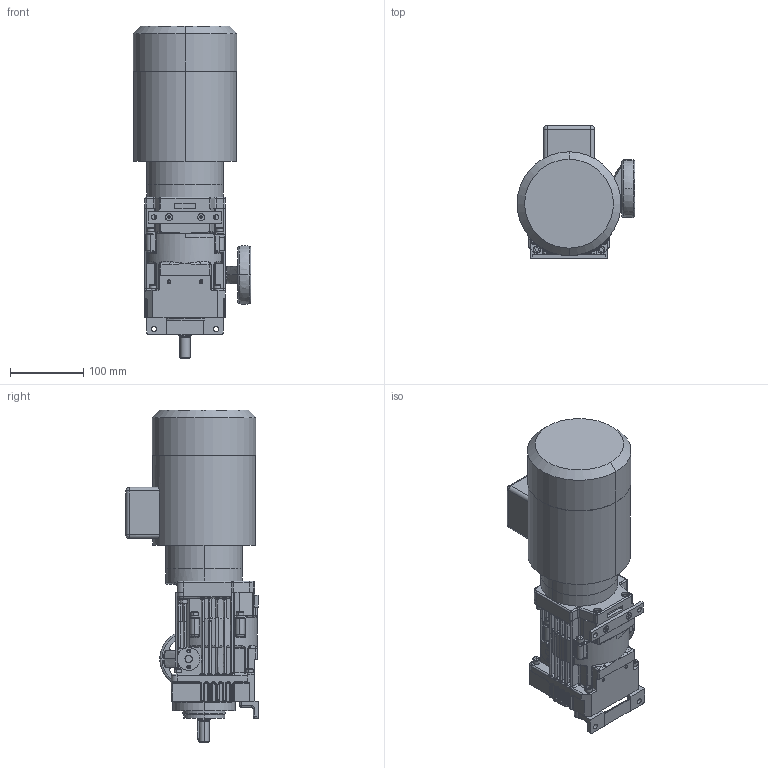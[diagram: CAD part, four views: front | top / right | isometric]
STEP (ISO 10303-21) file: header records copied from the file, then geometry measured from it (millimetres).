
FILE_DESCRIPTION(('CoCreate Modeling STEP Export'),'2;1');
FILE_NAME('R41_B3_HV_Motor_2D_3D.stp','2008-12-02T12:48:49',(''),(''),'CoCreate Modeling STEP processor for AP214 (Solid Model)','CoCreate Modeling 16.00A 16-Aug-2008 (C) Parametric Technology GmbH','');
FILE_SCHEMA(('AUTOMOTIVE_DESIGN { 1 0 10303 214 1 1 1 1 }'));
Products named in the file (3): R41_B3_HV_Motor_2D_3D_1; Motor_71_0_37_4_b14; R41_B3_HV_Motor_2D_3D
Assembly tree (2 placements, depth 2):
  R41_B3_HV_Motor_2D_3D
    Motor_71_0_37_4_b14
    R41_B3_HV_Motor_2D_3D_1
Bounding box: 161.01 x 181 x 454 mm (x, y, z)
Volume: 4936123.1 mm3; surface area: 356496 mm2
Topology: 2 solids, 3 shells, 1715 faces, 4223 edges, 2547 vertices
Faces by surface type: cylinder 654, plane 599, torus 159, bspline 124, cone 111, extrusion 46, sphere 22
Entity records: 74574 total; most frequent: CARTESIAN_POINT 38233, ORIENTED_EDGE 8282, DIRECTION 6587, EDGE_CURVE 4140, VERTEX_POINT 2546, AXIS2_PLACEMENT_3D 2310, VECTOR 1967, LINE 1921
